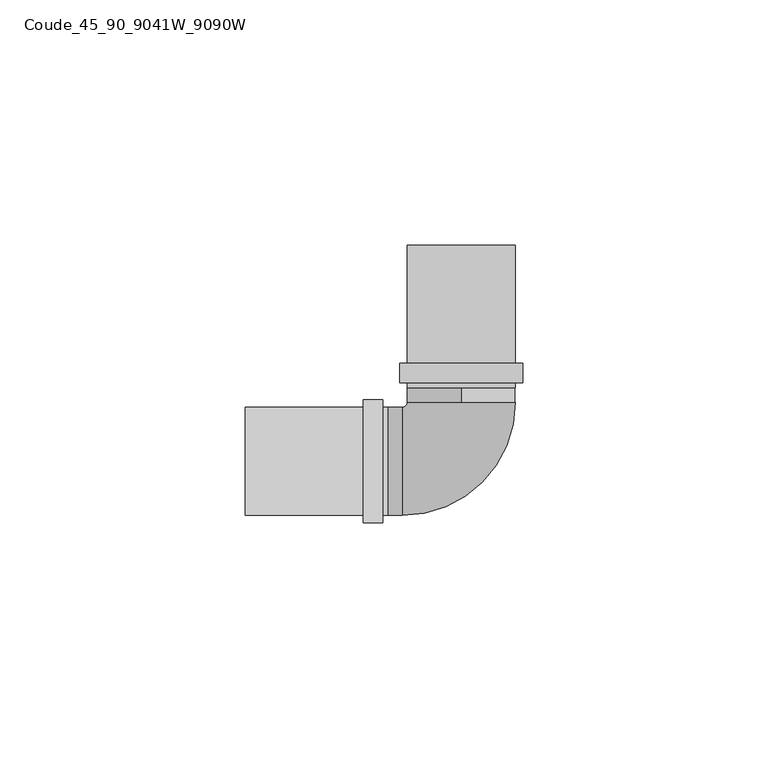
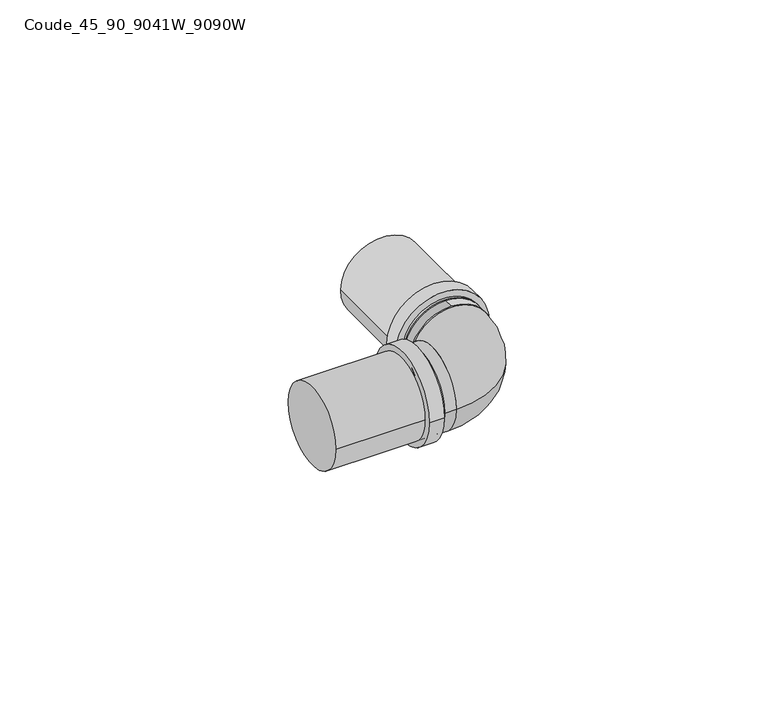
"""IFC4 building model written with IfcOpenShell, lengths in millimetres: pipe fitting geometry, COMAP - SKINPRESS ppsu - Coude_45_90_9041W_9090W : Coude_45_90_9041W_9090W."""

from ifc_helpers import new_model, si_unit, point, frame, origin, origin_2d, place, context, project, spatial, circle_curve, ellipse_curve, trimmed, segment, composite_curve, outline, extrude, source, transform, mapped, element, save
from ifc_brep_helpers import plane_surface, revolved_surface, advanced_brep


def coude_45_90_9041w_9090w_c84df457(model_context):
    return source(origin(), model_context, "Body", "SolidModel", [
        extrude(outline(composite_curve([segment(trimmed(circle_curve(origin_2d(), 12.5), [point((0.0, -12.5))], [point((0.0, 12.5))], False, "CARTESIAN"), True, "CONTINUOUS"), segment(trimmed(circle_curve(origin_2d(), 12.5), [point((0.0, 12.5))], [point((0.0, -12.5))], False, "CARTESIAN"), True, "CONTINUOUS")], self_intersect=False)), frame((0.0, 16.0, 0.0), z_axis=(0.0, 1.0, 0.0), x_axis=(0.0, 0.0, 1.0)), (0.0, 0.0, 1.0), 4.0),
        extrude(outline(composite_curve([segment(trimmed(circle_curve(origin_2d(), 11.0), [point((0.0, -11.0))], [point((0.0, 11.0))], False, "CARTESIAN"), True, "CONTINUOUS"), segment(trimmed(circle_curve(origin_2d(), 11.0), [point((0.0, 11.0))], [point((0.0, -11.0))], False, "CARTESIAN"), True, "CONTINUOUS")], self_intersect=False)), frame((0.0, 15.0, 0.0), z_axis=(0.0, 1.0, 0.0), x_axis=(0.0, 0.0, 1.0)), (0.0, 0.0, 1.0), 29.0),
        extrude(outline(composite_curve([segment(trimmed(circle_curve(origin_2d(), 12.5), [point((-12.5, 0.0))], [point((12.5, 0.0))], False, "CARTESIAN"), True, "CONTINUOUS"), segment(trimmed(circle_curve(origin_2d(), 12.5), [point((12.5, 0.0))], [point((-12.5, 0.0))], False, "CARTESIAN"), True, "CONTINUOUS")], self_intersect=False)), frame((-20.0, 0.0, 0.0), z_axis=(1.0, 0.0, 0.0), x_axis=(0.0, 1.0, 0.0)), (0.0, 0.0, 1.0), 4.0),
        extrude(outline(composite_curve([segment(trimmed(circle_curve(origin_2d(), 11.0), [point((-11.0, 0.0))], [point((11.0, 0.0))], False, "CARTESIAN"), True, "CONTINUOUS"), segment(trimmed(circle_curve(origin_2d(), 11.0), [point((11.0, 0.0))], [point((-11.0, 0.0))], False, "CARTESIAN"), True, "CONTINUOUS")], self_intersect=False)), frame((-44.0, 0.0, 0.0), z_axis=(1.0, 0.0, 0.0), x_axis=(0.0, 1.0, 0.0)), (0.0, 0.0, 1.0), 29.0),
        extrude(outline(composite_curve([segment(trimmed(circle_curve(origin_2d(), 11.0), [point((11.0, 0.0))], [point((-11.0, 0.0))], False, "CARTESIAN"), True, "CONTINUOUS"), segment(trimmed(circle_curve(origin_2d(), 11.0), [point((-11.0, 0.0))], [point((11.0, 0.0))], False, "CARTESIAN"), True, "CONTINUOUS")], self_intersect=False)), frame((-15.0, 0.0, 0.0), z_axis=(1.0, 0.0, 0.0), x_axis=(0.0, 1.0, 0.0)), (0.0, 0.0, 1.0), 3.0),
        extrude(outline(composite_curve([segment(trimmed(circle_curve(origin_2d(), 11.0), [point((-11.0, 0.0))], [point((11.0, 0.0))], False, "CARTESIAN"), True, "CONTINUOUS"), segment(trimmed(circle_curve(origin_2d(), 11.0), [point((11.0, 0.0))], [point((-11.0, 0.0))], False, "CARTESIAN"), True, "CONTINUOUS")], self_intersect=False)), frame((0.0, 12.0, 0.0), z_axis=(0.0, 1.0, 0.0), x_axis=(0.0, 0.0, 1.0)), (0.0, 0.0, 1.0), 3.0),
        advanced_brep(
        [(-12.0, -11.0, 0.0), (-12.0, 11.0, 0.0), (11.0, 12.0, 0.0), (-11.0, 12.0, 0.0)],
        [
            (0, 1, circle_curve(frame((-12.0, 0.0, 0.0), z_axis=(-1.0, 0.0, 0.0), x_axis=(0.0, 1.0, 0.0)), 11.0)),
            (1, 0, circle_curve(frame((-12.0, 0.0, 0.0), z_axis=(-1.0, 0.0, 0.0), x_axis=(0.0, 1.0, 0.0)), 11.0)),
            (2, 3, circle_curve(frame((0.0, 12.0, 0.0), z_axis=(0.0, 1.0, 0.0), x_axis=(-1.0, 0.0, 0.0)), 11.0)),
            (3, 2, circle_curve(frame((0.0, 12.0, 0.0), z_axis=(0.0, 1.0, 0.0), x_axis=(-1.0, 0.0, 0.0)), 11.0)),
            (3, 1, circle_curve(frame((-12.0, 12.0, 0.0), z_axis=(0.0, 0.0, -1.0), x_axis=(0.0, -1.0, 0.0)), 1.0)),
            (0, 2, circle_curve(frame((-12.0, 12.0, 0.0), z_axis=(0.0, 0.0, 1.0), x_axis=(0.0, -1.0, 0.0)), 23.0)),
        ],
        [
            plane_surface(frame((-12.0, 0.0, 0.0), z_axis=(-1.0, 0.0, 0.0), x_axis=(0.0, 0.0, 1.0))),
            plane_surface(frame((0.0, 12.0, 0.0), z_axis=(0.0, 1.0, 0.0), x_axis=(0.0, 0.0, 1.0))),
            revolved_surface(trimmed(ellipse_curve(frame((-12.0, 0.0, 0.0), z_axis=(-1.0, 0.0, 0.0), x_axis=(0.0, 1.0, 0.0)), 11.0, 11.0), [point((-12.0, -11.0, 0.0))], [point((-12.0, 11.0, 0.0))], True, "CARTESIAN"), (-12.0, 12.0, 0.0), (0.0, 0.0, 1.0)),
            revolved_surface(trimmed(ellipse_curve(frame((-12.0, 0.0, 0.0), z_axis=(-1.0, 0.0, 0.0), x_axis=(0.0, 1.0, 0.0)), 11.0, 11.0), [point((-12.0, 11.0, 0.0))], [point((-12.0, -11.0, 0.0))], True, "CARTESIAN"), (-12.0, 12.0, 0.0), (0.0, 0.0, 1.0)),
        ],
        [
            (0, [[1, 2]]),
            (1, [[3, 4]]),
            (2, [[5, -1, 6, -4]]),
            (3, [[-6, -2, -5, -3]]),
        ],
    ),
    ])


if __name__ == "__main__":
    model = new_model("IFC4")
    model_context = context("Model", 3, world=origin())
    ifc_project = project(units=[si_unit("LENGTHUNIT", "METRE", prefix="MILLI")], contexts=[model_context])
    site = spatial("IfcSite", under=ifc_project)
    building = spatial("IfcBuilding", under=site)
    placement = place(None, origin())
    coude_45_90_9041w_9090w_shape = coude_45_90_9041w_9090w_c84df457(model_context)
    element("IfcPipeFitting", 1, ObjectType="COMAP - SKINPRESS ppsu - Coude_45_90_9041W_9090W : Coude_45_90_9041W_9090W", at=placement, inside=building, context=model_context, shape_type="MappedRepresentation", body=[
        mapped(coude_45_90_9041w_9090w_shape, transform((0.0, 0.0, 0.0), x_axis=(1.0, 0.0, 0.0), y_axis=(0.0, 1.0, 0.0), z_axis=(0.0, 0.0, 1.0))),
    ])
    save(model, "model.ifc")
